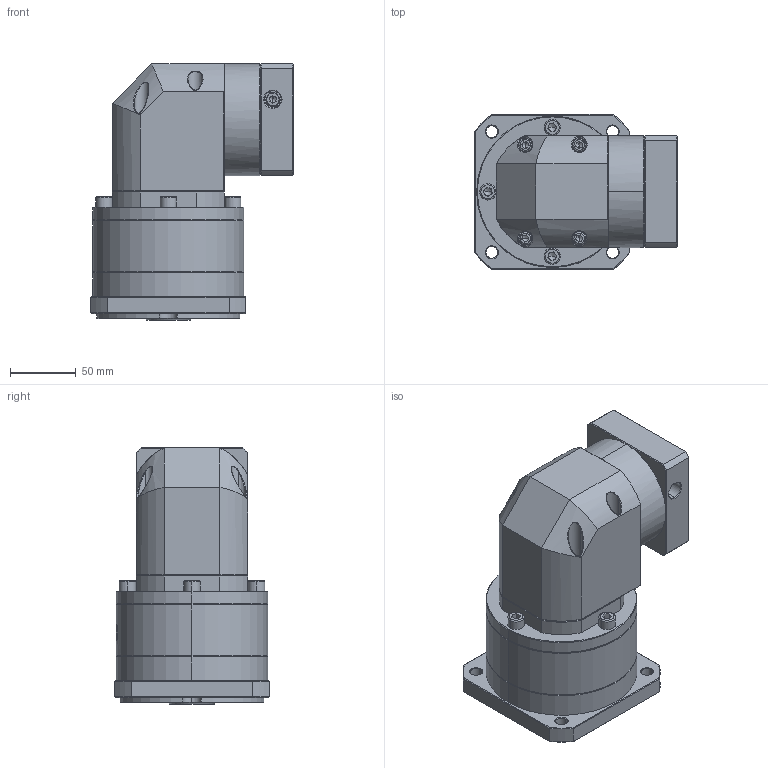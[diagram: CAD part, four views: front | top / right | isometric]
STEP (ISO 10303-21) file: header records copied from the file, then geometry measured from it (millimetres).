
FILE_DESCRIPTION (( 'STEP AP214' ), '1' );
FILE_NAME ('ZFR120A-K25-L2-P2-16-80-100-M6.step', '2023-08-27T09:21:06', ( '' ), ( '' ), 'SwSTEP 2.0', 'SolidWorks 2016', '' );
FILE_SCHEMA (( 'AUTOMOTIVE_DESIGN' ));
Length unit declared in the file: millimetre
Products named in the file (1): ZFR120A-K25-L2-P2-16-80-100-M6
Bounding box: 154.1 x 118 x 195 mm (x, y, z)
Volume: 1809371.9 mm3; surface area: 169219.7 mm2
Topology: 6 solids, 6 shells, 2342 faces, 6120 edges, 3886 vertices
Faces by surface type: plane 1146, bspline 434, cylinder 422, cone 326, torus 14
Entity records: 124489 total; most frequent: CARTESIAN_POINT 46660, ORIENTED_EDGE 12152, DIRECTION 8990, EDGE_CURVE 6076, VERTEX_POINT 3886, VECTOR 3280, LINE 3280, AXIS2_PLACEMENT_3D 2855
